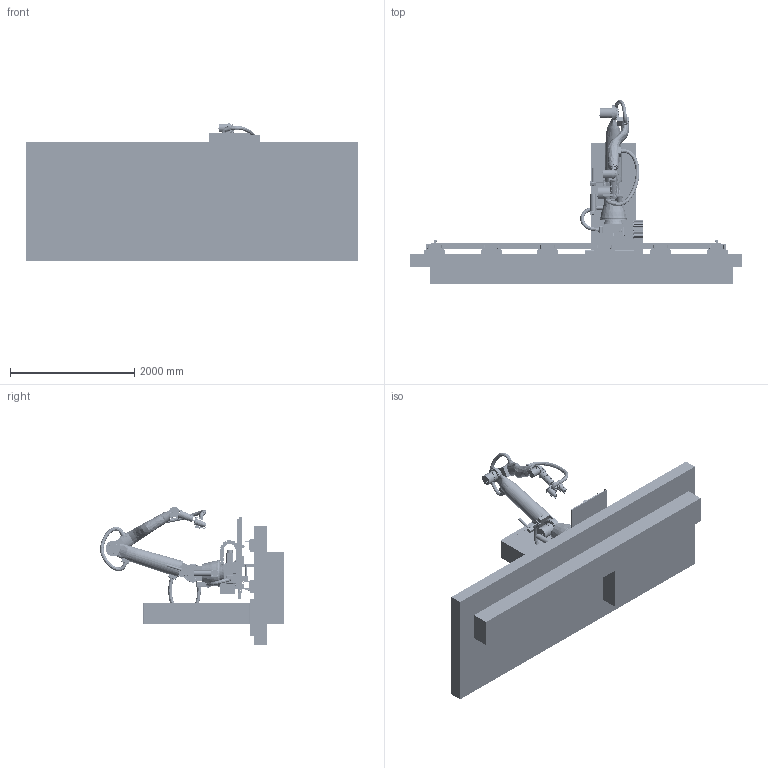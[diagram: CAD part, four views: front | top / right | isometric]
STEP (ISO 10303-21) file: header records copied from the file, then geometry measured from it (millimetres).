
FILE_DESCRIPTION(('Open CASCADE Model'),'2;1');
FILE_NAME('Open CASCADE Shape Model','2026-11-15T09:23:29',('Author'),( 'Open CASCADE'),'Open CASCADE STEP processor 7.9','Open CASCADE 7.9' ,'Unknown');
FILE_SCHEMA(('AUTOMOTIVE_DESIGN { 1 0 10303 214 1 1 1 1 }'));
Length unit declared in the file: millimetre
Products named in the file (269): charge_arm; Site; CHG-PAD#1; CHG-CAB#1; Bed; CHG-BBM#1; CHG-BPL#1; CHG-BGB#1; CHG-ANC-M16#1; ISO7089-16-fast_zn#1; ISO4032-M16-8#1; RAIL25-2340#1; ISO4762-M6x20-12.9#1; CHG-BRK#1; CHG-BST#1; CHG-BCH#1; CHG-BFL#1; CHG-SLB#1; CHG-BCC#1; ISO10642-M8x20-A4-80#1; CHG-BCB#1; CHG-BFC#1; CHG-LDP1#1; CHG-LDP2#1; CHG-LDP3#1; CHG-LDP4#1; CHG-LDN1#1; CHG-LDN2#1; CHG-LDN3#1; CHG-LDN4#1; CHG-LCS#1; CHG-LCR#1; CHG-LAR#1; CHG-LJS#1; CHG-LTL#1; CHG-LSF#1; CHG-LMX#1; CHG-LMZ#1; CHG-BK1#1; CHG-BK2#1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
Assembly tree (1090 placements, depth 12):
  charge_arm
    Site
      CHG-PAD#1
      CHG-CAB#1
    Bed
      CHG-BBM#1  x2
      CHG-BPL#1  x12
      CHG-BGB#1  x12
      CHG-ANC-M16#1  x24
      ISO7089-16-fast_zn#1  x24
      ISO4032-M16-8#1  x24
      RAIL25-2340#1  x4
      ISO4762-M6x20-12.9#1  x80
      CHG-BRK#1
      CHG-BST#1  x2
      CHG-BCH#1
      CHG-BFL#1
      CHG-SLB#1
      CHG-BCC#1  x8
      ISO10642-M8x20-A4-80#1  x28
      CHG-BCB#1  x2
      CHG-BFC#1
      CHG-LDP1#1
      CHG-LDP2#1
      CHG-LDP3#1
      CHG-LDP4#1
      CHG-LDN1#1
      CHG-LDN2#1
      CHG-LDN3#1
      CHG-LDN4#1
      CHG-LCS#1
      CHG-LCR#1
      CHG-LAR#1
      CHG-LJS#1
      CHG-LTL#1
      CHG-LSF#1
      CHG-LMX#1
      CHG-LMZ#1
      CHG-BK1#1  x4
      CHG-BK2#1  x4
      CHG-BK3#1  x4
      ISO4762-M6x55-A4-80#1  x8
      CHG-BGP#1
      CHG-BCF#1
    Carriage
      CHG-BCP#1
      BLK25#1  x4
      ISO4762-M6x20-12.9#1  x16
      CHG-BGF#1
      CHG-BGX#1
      CHG-BPN#1
      ISO4762-M8x35-12.9#1  x4
      RAIL20-1140#1  x2
      ISO4762-M5x16-12.9#1  x20
      CHG-BSZ#1
      CHG-BMZ#1
      CHG-BCA#1
      CHG-BZT#1
      ISO10642-M8x20-A4-80#1  x3
      CHG-BZE#1
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Bounding box: 5340 x 2957.61 x 2222.71 mm (x, y, z)
Volume: 3049447890 mm3; surface area: 87758000.9 mm2
Topology: 1767 solids, 1769 shells, 21344 faces, 46016 edges, 29694 vertices
Faces by surface type: plane 15109, cylinder 4140, cone 1011, torus 540, sphere 478, extrusion 36, bspline 30
Full cylindrical faces by diameter (mm): 2.52 x22, 3 x70, 3.2 x8, 3.4 x44, 4 x11, 4.2 x80, 5 x177, 5.04 x24, 5.1 x56, 5.5 x158, 5.6 x32, 6 x210, 6.1 x156, 6.5 x16, 6.6 x96, 6.8 x56, 7 x11, 8 x143, 8.4 x4, 8.5 x109, 8.68 x21, 8.96 x3, 9 x104, 9.388 x3, 9.5 x16, 9.6 x16, 9.625 x38, 9.92 x46, 10 x243, 11 x57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
Entity records: 581709 total; most frequent: CARTESIAN_POINT 220324, DIRECTION 67791, VECTOR 37207, LINE 37183, ORIENTED_EDGE 33222, PCURVE 33202, DEFINITIONAL_REPRESENTATION 33202, EDGE_CURVE 16601
